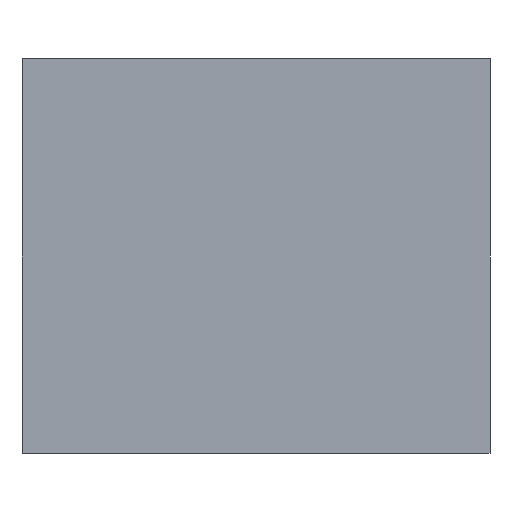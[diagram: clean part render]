
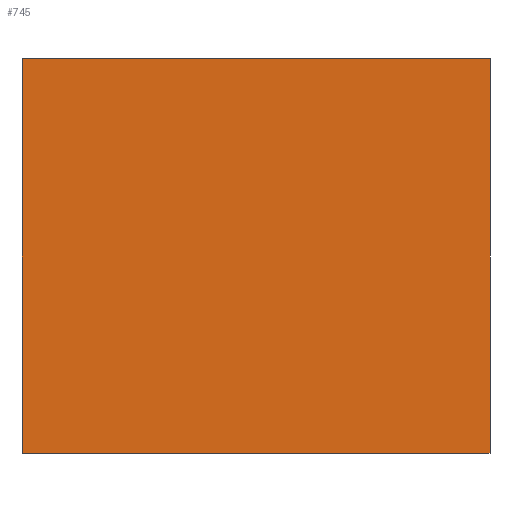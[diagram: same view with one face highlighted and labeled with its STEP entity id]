
A CAD part, front view. The second image highlights one B-rep face of the part: STEP entity #745.
In plain terms, the highlighted planar face has unit normal (0, -1, 0).
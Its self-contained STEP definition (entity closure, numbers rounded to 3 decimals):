
#209 = LINE ( 'NONE', #2086, #2183 ) ;
#389 = EDGE_CURVE ( 'NONE', #443, #1271, #2839, .T. ) ;
#443 = VERTEX_POINT ( 'NONE', #3255 ) ;
#449 = CARTESIAN_POINT ( 'NONE',  ( -16.129, -0.127, -13.589 ) ) ;
#552 = FACE_OUTER_BOUND ( 'NONE', #2041, .T. ) ;
#724 = EDGE_CURVE ( 'NONE', #1271, #1259, #2675, .T. ) ;
#745 = ADVANCED_FACE ( 'NONE', ( #552 ), #1615, .F. ) ;
#827 = CARTESIAN_POINT ( 'NONE',  ( 16.129, -0.127, 13.589 ) ) ;
#828 = EDGE_CURVE ( 'NONE', #2030, #443, #3320, .T. ) ;
#849 = CARTESIAN_POINT ( 'NONE',  ( -16.129, -0.127, -13.589 ) ) ;
#975 = DIRECTION ( 'NONE',  ( 0., 1., 0. ) ) ;
#1259 = VERTEX_POINT ( 'NONE', #1313 ) ;
#1271 = VERTEX_POINT ( 'NONE', #2347 ) ;
#1313 = CARTESIAN_POINT ( 'NONE',  ( -16.129, -0.127, 13.589 ) ) ;
#1339 = VECTOR ( 'NONE', #1925, 1000. ) ;
#1615 = PLANE ( 'NONE',  #2502 ) ;
#1750 = DIRECTION ( 'NONE',  ( -1., 0., 0. ) ) ;
#1805 = DIRECTION ( 'NONE',  ( 1., 0., 0. ) ) ;
#1812 = VECTOR ( 'NONE', #1750, 1000. ) ;
#1840 = ORIENTED_EDGE ( 'NONE', *, *, #2512, .F. ) ;
#1910 = ORIENTED_EDGE ( 'NONE', *, *, #724, .F. ) ;
#1923 = VECTOR ( 'NONE', #3092, 1000. ) ;
#1925 = DIRECTION ( 'NONE',  ( 0., 0., 1. ) ) ;
#1996 = CARTESIAN_POINT ( 'NONE',  ( 16.129, -0.127, -13.589 ) ) ;
#2030 = VERTEX_POINT ( 'NONE', #827 ) ;
#2041 = EDGE_LOOP ( 'NONE', ( #1910, #2396, #2066, #1840 ) ) ;
#2066 = ORIENTED_EDGE ( 'NONE', *, *, #828, .F. ) ;
#2070 = DIRECTION ( 'NONE',  ( 0., 0., 1. ) ) ;
#2086 = CARTESIAN_POINT ( 'NONE',  ( -16.129, -0.127, 13.589 ) ) ;
#2090 = CARTESIAN_POINT ( 'NONE',  ( -16.129, -0.127, 13.589 ) ) ;
#2183 = VECTOR ( 'NONE', #1805, 1000. ) ;
#2347 = CARTESIAN_POINT ( 'NONE',  ( -16.129, -0.127, -13.589 ) ) ;
#2396 = ORIENTED_EDGE ( 'NONE', *, *, #389, .F. ) ;
#2502 = AXIS2_PLACEMENT_3D ( 'NONE', #2090, #975, #2070 ) ;
#2512 = EDGE_CURVE ( 'NONE', #1259, #2030, #209, .T. ) ;
#2675 = LINE ( 'NONE', #849, #1339 ) ;
#2839 = LINE ( 'NONE', #449, #1812 ) ;
#3092 = DIRECTION ( 'NONE',  ( 0., 0., -1. ) ) ;
#3255 = CARTESIAN_POINT ( 'NONE',  ( 16.129, -0.127, -13.589 ) ) ;
#3320 = LINE ( 'NONE', #1996, #1923 ) ;
